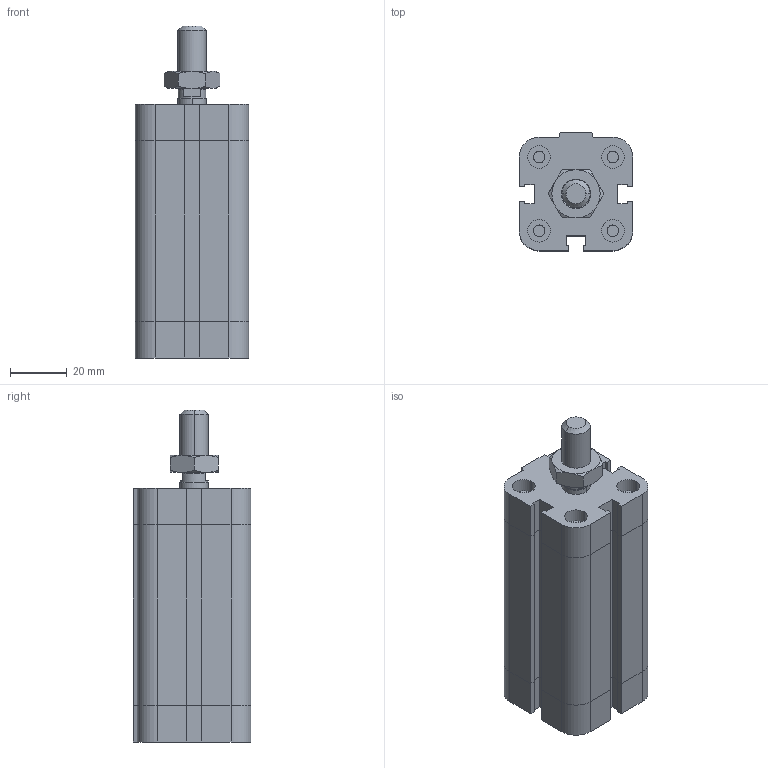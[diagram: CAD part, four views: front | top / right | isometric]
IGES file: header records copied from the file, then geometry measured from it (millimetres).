
Global section: file name: No Iges File Name specified; native system: Autodesk Inventor 2009; preprocessor: AutoDesk Inventor Iges Exporter R2009; author: rivolro1; date: 20081219.161725; units: millimetre
Bounding box: 40 x 41.5 x 117 mm (x, y, z)
Volume: 131585.7 mm3; surface area: 29055.2 mm2
Topology: 3 solids, 3 shells, 216 faces, 472 edges, 282 vertices
Faces by surface type: plane 121, bspline 37, cylinder 20, cone 20, revolution 18
